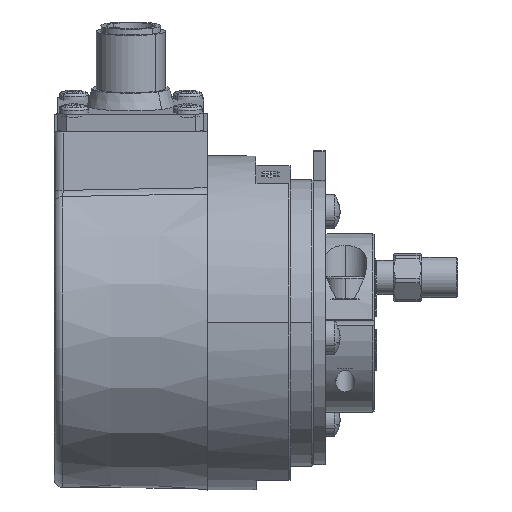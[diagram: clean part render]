
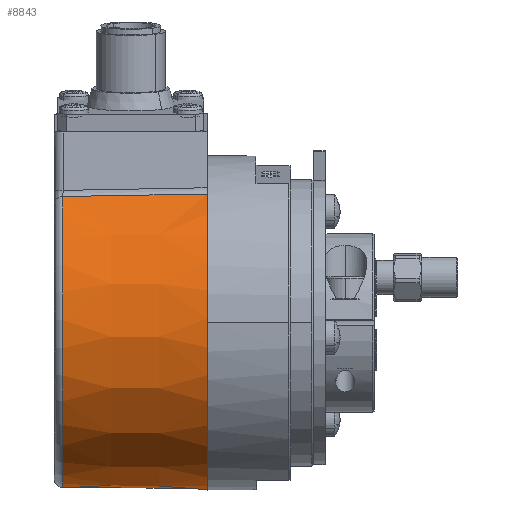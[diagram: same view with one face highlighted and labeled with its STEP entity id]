
A CAD part, top view. The second image highlights one B-rep face of the part: STEP entity #8843.
In plain terms, the highlighted conical face has half-angle 0.75 degrees and reference radius 29 mm.
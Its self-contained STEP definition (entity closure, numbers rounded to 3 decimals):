
#5158 = FACE_OUTER_BOUND ( 'NONE', #8844, .T. ) ;
#5159 = CARTESIAN_POINT ( 'NONE',  ( -17.52, 21.923, 18.479 ) ) ;
#5160 = DIRECTION ( 'NONE',  ( 0., 0.993, 0.122 ) ) ;
#5161 = DIRECTION ( 'NONE',  ( 1., 0., 0. ) ) ;
#5162 = CARTESIAN_POINT ( 'NONE',  ( -17.52, 0., 0. ) ) ;
#5163 = AXIS2_PLACEMENT_3D ( 'NONE', #5162, #5161, #5160 ) ;
#5164 = CIRCLE ( 'NONE', #5163, 28.672 ) ;
#5165 = CARTESIAN_POINT ( 'NONE',  ( -17.52, -28.459, -3.494 ) ) ;
#5176 = CARTESIAN_POINT ( 'NONE',  ( 7.5, -28.784, -3.534 ) ) ;
#5177 = DIRECTION ( 'NONE',  ( 1., -0.013, -0.002 ) ) ;
#5178 = VECTOR ( 'NONE', #5177, 1000. ) ;
#5179 = CARTESIAN_POINT ( 'NONE',  ( 7.5, -28.784, -3.534 ) ) ;
#5180 = LINE ( 'NONE', #5179, #5178 ) ;
#5181 = DIRECTION ( 'NONE',  ( 0., -0.993, -0.122 ) ) ;
#5182 = DIRECTION ( 'NONE',  ( 1., 0., 0. ) ) ;
#5183 = CARTESIAN_POINT ( 'NONE',  ( 7.5, 0., 0. ) ) ;
#5184 = AXIS2_PLACEMENT_3D ( 'NONE', #5183, #5182, #5181 ) ;
#5185 = CONICAL_SURFACE ( 'NONE', #5184, 29., 0.013 ) ;
#5399 = B_SPLINE_CURVE_WITH_KNOTS ( 'NONE', 3,
 ( #5450, #5449, #5448, #5447, #5446, #5445, #5444, #5443, #5442, #5441 ),
 .UNSPECIFIED., .F., .F.,
 ( 4, 3, 3, 4 ),
 ( 0., 0.003, 0.015, 0.025 ),
 .UNSPECIFIED. ) ;
#5401 = CARTESIAN_POINT ( 'NONE',  ( 7.5, 22.36, 18.467 ) ) ;
#5402 = DIRECTION ( 'NONE',  ( 0., 0.993, 0.122 ) ) ;
#5403 = DIRECTION ( 'NONE',  ( -1., 0., 0. ) ) ;
#5404 = CARTESIAN_POINT ( 'NONE',  ( 7.5, 0., 0. ) ) ;
#5405 = AXIS2_PLACEMENT_3D ( 'NONE', #5404, #5403, #5402 ) ;
#5406 = CIRCLE ( 'NONE', #5405, 29. ) ;
#5441 = CARTESIAN_POINT ( 'NONE',  ( -17.52, 21.923, 18.479 ) ) ;
#5442 = CARTESIAN_POINT ( 'NONE',  ( -14.179, 21.982, 18.477 ) ) ;
#5443 = CARTESIAN_POINT ( 'NONE',  ( -10.838, 22.04, 18.476 ) ) ;
#5444 = CARTESIAN_POINT ( 'NONE',  ( -7.498, 22.099, 18.474 ) ) ;
#5445 = CARTESIAN_POINT ( 'NONE',  ( -3.498, 22.169, 18.472 ) ) ;
#5446 = CARTESIAN_POINT ( 'NONE',  ( 0.501, 22.238, 18.47 ) ) ;
#5447 = CARTESIAN_POINT ( 'NONE',  ( 4.5, 22.308, 18.469 ) ) ;
#5448 = CARTESIAN_POINT ( 'NONE',  ( 5.5, 22.325, 18.468 ) ) ;
#5449 = CARTESIAN_POINT ( 'NONE',  ( 6.5, 22.343, 18.468 ) ) ;
#5450 = CARTESIAN_POINT ( 'NONE',  ( 7.5, 22.36, 18.467 ) ) ;
#8837 = VERTEX_POINT ( 'NONE', #5165 ) ;
#8839 = EDGE_CURVE ( 'NONE', #8840, #8837, #5164, .T. ) ;
#8840 = VERTEX_POINT ( 'NONE', #5159 ) ;
#8843 = ADVANCED_FACE ( 'NONE', ( #5158 ), #5185, .T. ) ;
#8844 = EDGE_LOOP ( 'NONE', ( #8845, #8846, #8903, #8906 ) ) ;
#8845 = ORIENTED_EDGE ( 'NONE', *, *, #8839, .T. ) ;
#8846 = ORIENTED_EDGE ( 'NONE', *, *, #8847, .T. ) ;
#8847 = EDGE_CURVE ( 'NONE', #8837, #8848, #5180, .T. ) ;
#8848 = VERTEX_POINT ( 'NONE', #5176 ) ;
#8903 = ORIENTED_EDGE ( 'NONE', *, *, #8904, .T. ) ;
#8904 = EDGE_CURVE ( 'NONE', #8848, #8905, #5406, .T. ) ;
#8905 = VERTEX_POINT ( 'NONE', #5401 ) ;
#8906 = ORIENTED_EDGE ( 'NONE', *, *, #8907, .T. ) ;
#8907 = EDGE_CURVE ( 'NONE', #8905, #8840, #5399, .T. ) ;
